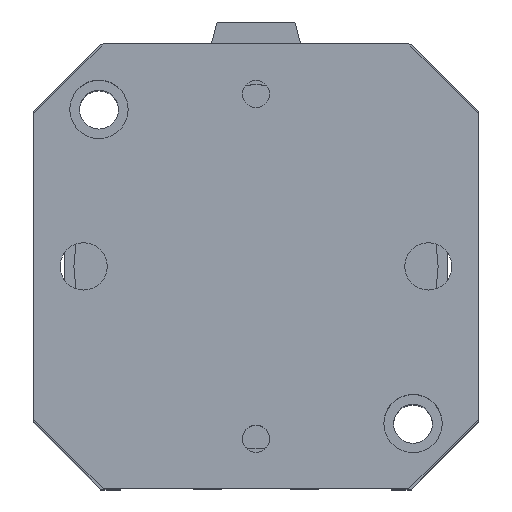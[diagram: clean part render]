
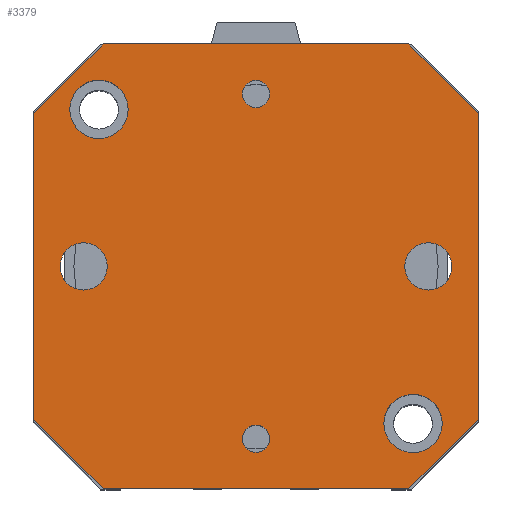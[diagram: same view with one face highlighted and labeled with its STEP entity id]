
A CAD part, top view. The second image highlights one B-rep face of the part: STEP entity #3379.
In plain terms, the highlighted planar face has unit normal (0, 0, 1).
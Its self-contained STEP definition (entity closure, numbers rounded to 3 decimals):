
#265=LINE('',#5630,#519);
#267=LINE('',#5634,#521);
#269=LINE('',#5638,#523);
#271=LINE('',#5642,#525);
#273=LINE('',#5646,#527);
#275=LINE('',#5650,#529);
#277=LINE('',#5654,#531);
#279=LINE('',#5657,#533);
#519=VECTOR('',#4681,55.);
#521=VECTOR('',#4685,17.678);
#523=VECTOR('',#4689,55.);
#525=VECTOR('',#4693,17.678);
#527=VECTOR('',#4697,55.);
#529=VECTOR('',#4701,17.678);
#531=VECTOR('',#4705,55.);
#533=VECTOR('',#4709,17.678);
#627=PLANE('',#3743);
#716=FACE_BOUND('',#1138,.T.);
#717=FACE_BOUND('',#1139,.T.);
#718=FACE_BOUND('',#1140,.T.);
#719=FACE_BOUND('',#1141,.T.);
#720=FACE_BOUND('',#1142,.T.);
#721=FACE_BOUND('',#1143,.T.);
#722=FACE_BOUND('',#1144,.T.);
#1138=EDGE_LOOP('',(#2914));
#1139=EDGE_LOOP('',(#2915));
#1140=EDGE_LOOP('',(#2916));
#1141=EDGE_LOOP('',(#2917));
#1142=EDGE_LOOP('',(#2918));
#1143=EDGE_LOOP('',(#2919));
#1144=EDGE_LOOP('',(#2920,#2921,#2922,#2923,#2924,#2925,#2926,#2927));
#1309=CIRCLE('',#3699,2.459);
#1311=CIRCLE('',#3702,2.459);
#1316=CIRCLE('',#3710,4.25);
#1320=CIRCLE('',#3717,4.25);
#1329=CIRCLE('',#3732,5.25);
#1330=CIRCLE('',#3734,5.25);
#1601=VERTEX_POINT('',#5548);
#1603=VERTEX_POINT('',#5553);
#1608=VERTEX_POINT('',#5566);
#1612=VERTEX_POINT('',#5577);
#1631=VERTEX_POINT('',#5621);
#1632=VERTEX_POINT('',#5624);
#1633=VERTEX_POINT('',#5627);
#1634=VERTEX_POINT('',#5629);
#1635=VERTEX_POINT('',#5633);
#1636=VERTEX_POINT('',#5637);
#1637=VERTEX_POINT('',#5641);
#1638=VERTEX_POINT('',#5645);
#1639=VERTEX_POINT('',#5649);
#1640=VERTEX_POINT('',#5653);
#2025=EDGE_CURVE('',#1601,#1601,#1309,.T.);
#2027=EDGE_CURVE('',#1603,#1603,#1311,.T.);
#2032=EDGE_CURVE('',#1608,#1608,#1316,.T.);
#2036=EDGE_CURVE('',#1612,#1612,#1320,.T.);
#2055=EDGE_CURVE('',#1631,#1631,#1329,.T.);
#2056=EDGE_CURVE('',#1632,#1632,#1330,.T.);
#2058=EDGE_CURVE('',#1634,#1633,#265,.T.);
#2060=EDGE_CURVE('',#1635,#1634,#267,.T.);
#2062=EDGE_CURVE('',#1636,#1635,#269,.T.);
#2064=EDGE_CURVE('',#1637,#1636,#271,.T.);
#2066=EDGE_CURVE('',#1638,#1637,#273,.T.);
#2068=EDGE_CURVE('',#1639,#1638,#275,.T.);
#2070=EDGE_CURVE('',#1640,#1639,#277,.T.);
#2072=EDGE_CURVE('',#1633,#1640,#279,.T.);
#2914=ORIENTED_EDGE('',*,*,#2025,.T.);
#2915=ORIENTED_EDGE('',*,*,#2027,.T.);
#2916=ORIENTED_EDGE('',*,*,#2032,.T.);
#2917=ORIENTED_EDGE('',*,*,#2036,.T.);
#2918=ORIENTED_EDGE('',*,*,#2055,.T.);
#2919=ORIENTED_EDGE('',*,*,#2056,.T.);
#2920=ORIENTED_EDGE('',*,*,#2072,.T.);
#2921=ORIENTED_EDGE('',*,*,#2070,.T.);
#2922=ORIENTED_EDGE('',*,*,#2068,.T.);
#2923=ORIENTED_EDGE('',*,*,#2066,.T.);
#2924=ORIENTED_EDGE('',*,*,#2064,.T.);
#2925=ORIENTED_EDGE('',*,*,#2062,.T.);
#2926=ORIENTED_EDGE('',*,*,#2060,.T.);
#2927=ORIENTED_EDGE('',*,*,#2058,.T.);
#3379=ADVANCED_FACE('',(#716,#717,#718,#719,#720,#721,#722),#627,.T.);
#3699=AXIS2_PLACEMENT_3D('',#5549,#4596,#4597);
#3702=AXIS2_PLACEMENT_3D('',#5554,#4602,#4603);
#3710=AXIS2_PLACEMENT_3D('',#5567,#4618,#4619);
#3717=AXIS2_PLACEMENT_3D('',#5578,#4632,#4633);
#3732=AXIS2_PLACEMENT_3D('',#5622,#4672,#4673);
#3734=AXIS2_PLACEMENT_3D('',#5625,#4676,#4677);
#3743=AXIS2_PLACEMENT_3D('',#5658,#4710,#4711);
#4596=DIRECTION('center_axis',(0.,0.,-1.));
#4597=DIRECTION('ref_axis',(1.,0.,0.));
#4602=DIRECTION('center_axis',(0.,0.,-1.));
#4603=DIRECTION('ref_axis',(1.,0.,0.));
#4618=DIRECTION('center_axis',(0.,0.,-1.));
#4619=DIRECTION('ref_axis',(1.,0.,0.));
#4632=DIRECTION('center_axis',(0.,0.,-1.));
#4633=DIRECTION('ref_axis',(1.,0.,0.));
#4672=DIRECTION('center_axis',(0.,0.,-1.));
#4673=DIRECTION('ref_axis',(-1.,0.,0.));
#4676=DIRECTION('center_axis',(0.,0.,-1.));
#4677=DIRECTION('ref_axis',(-1.,0.,0.));
#4681=DIRECTION('',(0.,1.,0.));
#4685=DIRECTION('',(0.707,0.707,0.));
#4689=DIRECTION('',(1.,0.,0.));
#4693=DIRECTION('',(0.707,-0.707,0.));
#4697=DIRECTION('',(0.,-1.,0.));
#4701=DIRECTION('',(-0.707,-0.707,0.));
#4705=DIRECTION('',(-1.,0.,0.));
#4709=DIRECTION('',(-0.707,0.707,0.));
#4710=DIRECTION('center_axis',(0.,0.,1.));
#4711=DIRECTION('ref_axis',(1.,0.,0.));
#5548=CARTESIAN_POINT('',(-33.459,0.,97.25));
#5549=CARTESIAN_POINT('Origin',(-31.,0.,97.25));
#5553=CARTESIAN_POINT('',(28.542,0.,97.25));
#5554=CARTESIAN_POINT('Origin',(31.,0.,97.25));
#5566=CARTESIAN_POINT('',(-4.25,31.,97.25));
#5567=CARTESIAN_POINT('Origin',(0.,31.,97.25));
#5577=CARTESIAN_POINT('',(-4.25,-31.,97.25));
#5578=CARTESIAN_POINT('Origin',(0.,-31.,97.25));
#5621=CARTESIAN_POINT('',(-23.,-28.25,97.25));
#5622=CARTESIAN_POINT('Origin',(-28.25,-28.25,97.25));
#5624=CARTESIAN_POINT('',(33.5,28.25,97.25));
#5625=CARTESIAN_POINT('Origin',(28.25,28.25,97.25));
#5627=CARTESIAN_POINT('',(40.,27.5,97.25));
#5629=CARTESIAN_POINT('',(40.,-27.5,97.25));
#5630=CARTESIAN_POINT('',(40.,27.5,97.25));
#5633=CARTESIAN_POINT('',(27.5,-40.,97.25));
#5634=CARTESIAN_POINT('',(40.,-27.5,97.25));
#5637=CARTESIAN_POINT('',(-27.5,-40.,97.25));
#5638=CARTESIAN_POINT('',(27.5,-40.,97.25));
#5641=CARTESIAN_POINT('',(-40.,-27.5,97.25));
#5642=CARTESIAN_POINT('',(-27.5,-40.,97.25));
#5645=CARTESIAN_POINT('',(-40.,27.5,97.25));
#5646=CARTESIAN_POINT('',(-40.,-27.5,97.25));
#5649=CARTESIAN_POINT('',(-27.5,40.,97.25));
#5650=CARTESIAN_POINT('',(-40.,27.5,97.25));
#5653=CARTESIAN_POINT('',(27.5,40.,97.25));
#5654=CARTESIAN_POINT('',(-27.5,40.,97.25));
#5657=CARTESIAN_POINT('',(27.5,40.,97.25));
#5658=CARTESIAN_POINT('Origin',(0.,0.,
97.25));
